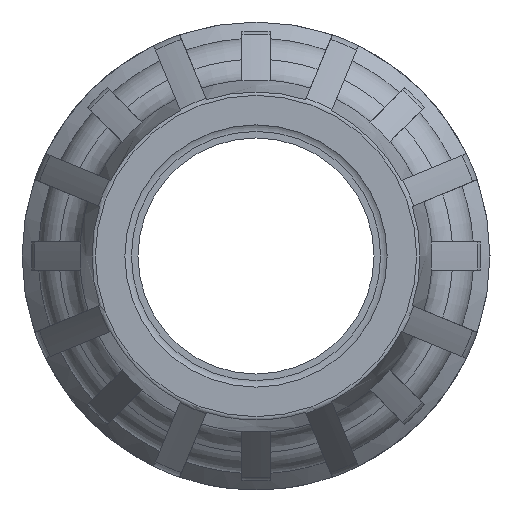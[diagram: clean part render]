
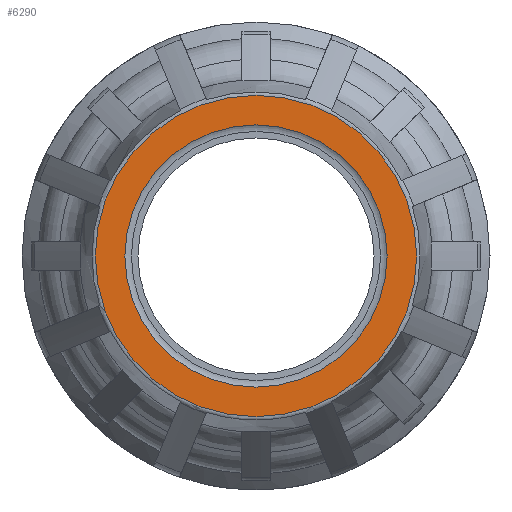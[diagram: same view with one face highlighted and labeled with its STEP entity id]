
A CAD part, left-side view. The second image highlights one B-rep face of the part: STEP entity #6290.
In plain terms, the highlighted planar face has unit normal (-1, 0, 0).
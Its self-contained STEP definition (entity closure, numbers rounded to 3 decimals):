
#90=PLANE('',#6960);
#2792=ORIENTED_EDGE('',*,*,#3977,.F.);
#2793=ORIENTED_EDGE('',*,*,#3994,.F.);
#3977=EDGE_CURVE('',#4711,#4711,#5048,.T.);
#3994=EDGE_CURVE('',#4712,#4712,#5065,.F.);
#4711=VERTEX_POINT('',#11850);
#4712=VERTEX_POINT('',#11885);
#5048=CIRCLE('',#6927,31.249);
#5065=CIRCLE('',#6961,25.5);
#5419=EDGE_LOOP('',(#2792));
#5420=EDGE_LOOP('',(#2793));
#5827=FACE_BOUND('',#5419,.T.);
#5828=FACE_BOUND('',#5420,.T.);
#6290=ADVANCED_FACE('',(#5827,#5828),#90,.F.);
#6927=AXIS2_PLACEMENT_3D('',#11849,#8311,#8312);
#6960=AXIS2_PLACEMENT_3D('',#11883,#8377,#8378);
#6961=AXIS2_PLACEMENT_3D('',#11884,#8379,#8380);
#8311=DIRECTION('',(1.,0.,0.));
#8312=DIRECTION('',(0.,0.,-1.));
#8377=DIRECTION('',(1.,0.,0.));
#8378=DIRECTION('',(0.,0.,-1.));
#8379=DIRECTION('',(1.,0.,0.));
#8380=DIRECTION('',(0.,0.,-1.));
#11849=CARTESIAN_POINT('',(0.,0.,0.));
#11850=CARTESIAN_POINT('',(0.,0.,-31.249));
#11883=CARTESIAN_POINT('',(0.,0.,0.));
#11884=CARTESIAN_POINT('',(0.,0.,0.));
#11885=CARTESIAN_POINT('',(0.,0.,-25.5));
